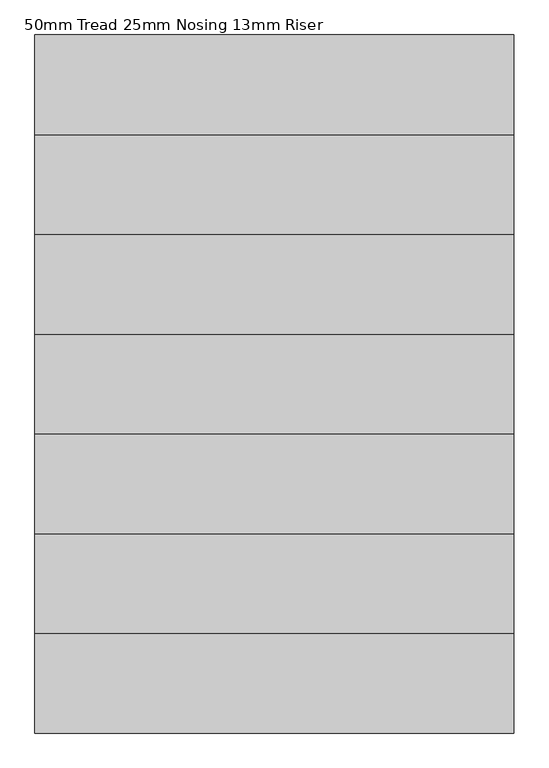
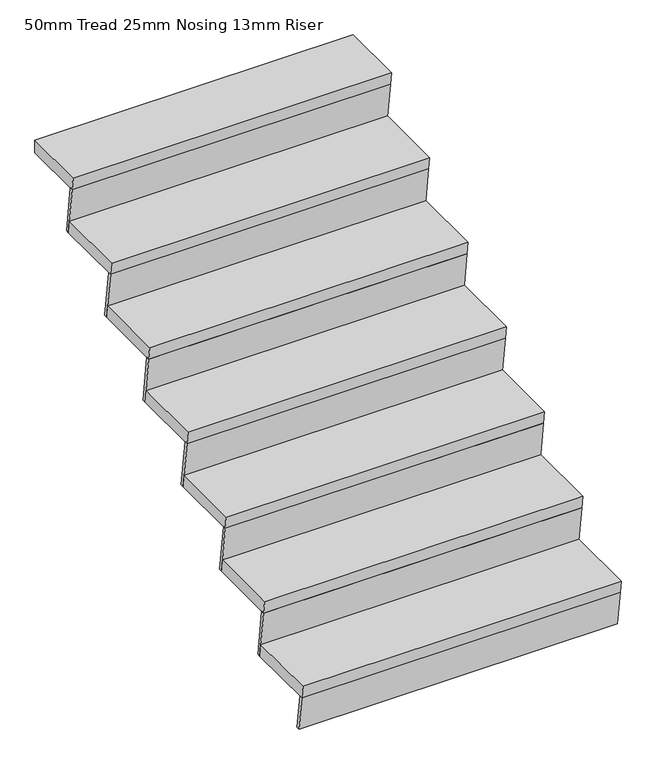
"""IFC4 building model written with IfcOpenShell, lengths in millimetres: stair flight geometry, 50mm Tread 25mm Nosing 13mm Riser."""

from ifc_helpers import new_model, si_unit, frame, origin, place, context, project, spatial, polyline, outline, extrude, source, transform, mapped, element, save


def stair_flight_50mm_tread_25mm_nosing_13mm_riser_1c29f03d(model_context):
    return source(origin(), model_context, "Body", "SweptSolid", [
        extrude(outline(polyline([(15016.4909405, -2986.3142857), (15295.4909405, -2986.3142857), (15302.1157134, -3036.3142857), (15023.1157134, -3036.3142857), (15016.4909405, -2986.3142857)])), frame((19314.4017773, 0.0, 0.0), z_axis=(1.0, 0.0, 0.0), x_axis=(0.0, 1.0, 0.0)), (0.0, 0.0, 1.0), 1219.2),
        extrude(outline(polyline([(15023.1157134, -3036.3142857), (15035.7249551, -3036.3142857), (15054.1001822, -3175.0), (15041.4909405, -3175.0), (15023.1157134, -3036.3142857)])), frame((19314.4017773, 0.0, 0.0), z_axis=(1.0, 0.0, 0.0), x_axis=(0.0, 1.0, 0.0)), (0.0, 0.0, 1.0), 1219.2),
        extrude(outline(polyline([(15277.1157134, -2847.6285714), (15289.7249551, -2847.6285714), (15314.7249551, -3036.3142857), (15302.1157134, -3036.3142857), (15277.1157134, -2847.6285714)])), frame((19314.4017773, 0.0, 0.0), z_axis=(1.0, 0.0, 0.0), x_axis=(0.0, 1.0, 0.0)), (0.0, 0.0, 1.0), 1219.2),
        extrude(outline(polyline([(15270.4909405, -2797.6285714), (15549.4909405, -2797.6285714), (15556.1157134, -2847.6285714), (15277.1157134, -2847.6285714), (15270.4909405, -2797.6285714)])), frame((19314.4017773, 0.0, 0.0), z_axis=(1.0, 0.0, 0.0), x_axis=(0.0, 1.0, 0.0)), (0.0, 0.0, 1.0), 1219.2),
        extrude(outline(polyline([(15531.1157134, -2658.9428571), (15543.7249551, -2658.9428571), (15568.7249551, -2847.6285714), (15556.1157134, -2847.6285714), (15531.1157134, -2658.9428571)])), frame((19314.4017773, 0.0, 0.0), z_axis=(1.0, 0.0, 0.0), x_axis=(0.0, 1.0, 0.0)), (0.0, 0.0, 1.0), 1219.2),
        extrude(outline(polyline([(15524.4909405, -2608.9428571), (15803.4909405, -2608.9428571), (15810.1157134, -2658.9428571), (15531.1157134, -2658.9428571), (15524.4909405, -2608.9428571)])), frame((19314.4017773, 0.0, 0.0), z_axis=(1.0, 0.0, 0.0), x_axis=(0.0, 1.0, 0.0)), (0.0, 0.0, 1.0), 1219.2),
        extrude(outline(polyline([(15785.1157134, -2470.2571429), (15797.7249551, -2470.2571429), (15822.7249551, -2658.9428571), (15810.1157134, -2658.9428571), (15785.1157134, -2470.2571429)])), frame((19314.4017773, 0.0, 0.0), z_axis=(1.0, 0.0, 0.0), x_axis=(0.0, 1.0, 0.0)), (0.0, 0.0, 1.0), 1219.2),
        extrude(outline(polyline([(15778.4909405, -2420.2571429), (16057.4909405, -2420.2571429), (16064.1157134, -2470.2571429), (15785.1157134, -2470.2571429), (15778.4909405, -2420.2571429)])), frame((19314.4017773, 0.0, 0.0), z_axis=(1.0, 0.0, 0.0), x_axis=(0.0, 1.0, 0.0)), (0.0, 0.0, 1.0), 1219.2),
        extrude(outline(polyline([(16039.1157134, -2281.5714286), (16051.7249551, -2281.5714286), (16076.7249551, -2470.2571429), (16064.1157134, -2470.2571429), (16039.1157134, -2281.5714286)])), frame((19314.4017773, 0.0, 0.0), z_axis=(1.0, 0.0, 0.0), x_axis=(0.0, 1.0, 0.0)), (0.0, 0.0, 1.0), 1219.2),
        extrude(outline(polyline([(16032.4909405, -2231.5714286), (16311.4909405, -2231.5714286), (16318.1157134, -2281.5714286), (16039.1157134, -2281.5714286), (16032.4909405, -2231.5714286)])), frame((19314.4017773, 0.0, 0.0), z_axis=(1.0, 0.0, 0.0), x_axis=(0.0, 1.0, 0.0)), (0.0, 0.0, 1.0), 1219.2),
        extrude(outline(polyline([(16293.1157134, -2092.8857143), (16305.7249551, -2092.8857143), (16330.7249551, -2281.5714286), (16318.1157134, -2281.5714286), (16293.1157134, -2092.8857143)])), frame((19314.4017773, 0.0, 0.0), z_axis=(1.0, 0.0, 0.0), x_axis=(0.0, 1.0, 0.0)), (0.0, 0.0, 1.0), 1219.2),
        extrude(outline(polyline([(16286.4909405, -2042.8857143), (16565.4909405, -2042.8857143), (16572.1157134, -2092.8857143), (16293.1157134, -2092.8857143), (16286.4909405, -2042.8857143)])), frame((19314.4017773, 0.0, 0.0), z_axis=(1.0, 0.0, 0.0), x_axis=(0.0, 1.0, 0.0)), (0.0, 0.0, 1.0), 1219.2),
        extrude(outline(polyline([(16547.1157134, -1904.2), (16559.7249551, -1904.2), (16584.7249551, -2092.8857143), (16572.1157134, -2092.8857143), (16547.1157134, -1904.2)])), frame((19314.4017773, 0.0, 0.0), z_axis=(1.0, 0.0, 0.0), x_axis=(0.0, 1.0, 0.0)), (0.0, 0.0, 1.0), 1219.2),
        extrude(outline(polyline([(16540.4909405, -1854.2), (16794.4909405, -1854.2), (16794.4909405, -1904.2), (16547.1157134, -1904.2), (16540.4909405, -1854.2)])), frame((19314.4017773, 0.0, 0.0), z_axis=(1.0, 0.0, 0.0), x_axis=(0.0, 1.0, 0.0)), (0.0, 0.0, 1.0), 1219.2),
    ])


if __name__ == "__main__":
    model = new_model("IFC4")
    model_context = context("Model", 3, world=origin())
    ifc_project = project(units=[si_unit("LENGTHUNIT", "METRE", prefix="MILLI")], contexts=[model_context])
    site = spatial("IfcSite", under=ifc_project)
    building = spatial("IfcBuilding", under=site)
    placement = place(None, origin())
    stair_flight_50mm_tread_25mm_nosing_13mm_riser_shape = stair_flight_50mm_tread_25mm_nosing_13mm_riser_1c29f03d(model_context)
    element("IfcStairFlight", 1, ObjectType="50mm Tread 25mm Nosing 13mm Riser", at=placement, inside=building, context=model_context, shape_type="MappedRepresentation", body=[
        mapped(stair_flight_50mm_tread_25mm_nosing_13mm_riser_shape, transform((0.0, 0.0, 0.0), x_axis=(1.0, 0.0, 0.0), y_axis=(0.0, 1.0, 0.0), z_axis=(0.0, 0.0, 1.0))),
    ])
    save(model, "model.ifc")
